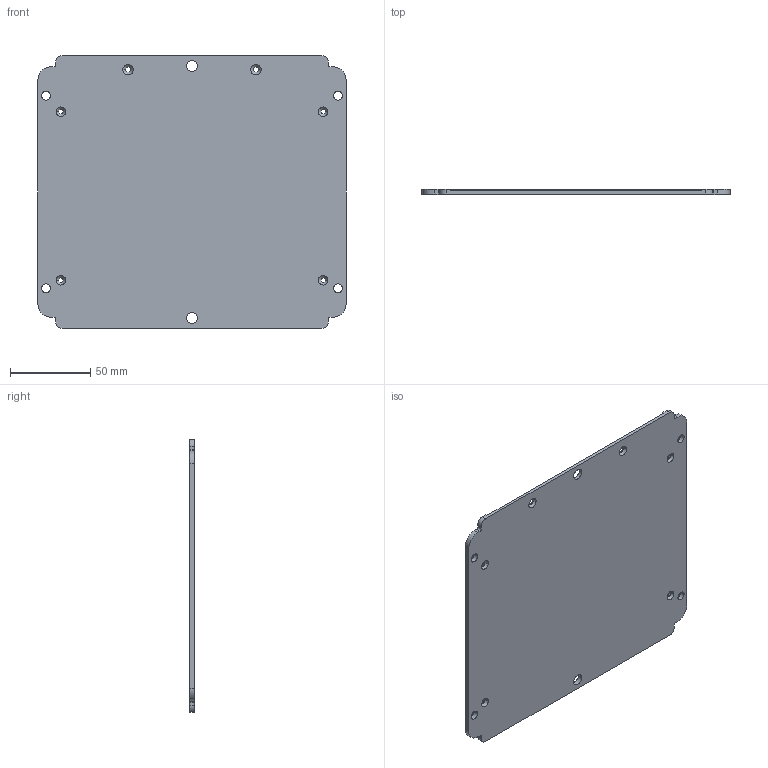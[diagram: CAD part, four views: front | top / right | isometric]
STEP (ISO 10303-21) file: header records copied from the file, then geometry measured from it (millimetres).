
FILE_DESCRIPTION((''),'2;1');
FILE_NAME('BOT_2','2024-12-18T',('18137'),(''),'CREO PARAMETRIC BY PTC INC, 2016050','CREO PARAMETRIC BY PTC INC, 2016050','');
FILE_SCHEMA(('CONFIG_CONTROL_DESIGN'));
Length unit declared in the file: millimetre
Products named in the file (1): BOT_2
Bounding box: 192 x 3 x 170 mm (x, y, z)
Volume: 92170.7 mm3; surface area: 67597.9 mm2
Topology: 1 solids, 1 shells, 122 faces, 354 edges, 232 vertices
Faces by surface type: cylinder 74, plane 36, cone 12
Entity records: 4176 total; most frequent: DIRECTION 766, CARTESIAN_POINT 708, ORIENTED_EDGE 708, EDGE_CURVE 354, AXIS2_PLACEMENT_3D 290, VERTEX_POINT 232, VECTOR 186, LINE 186
